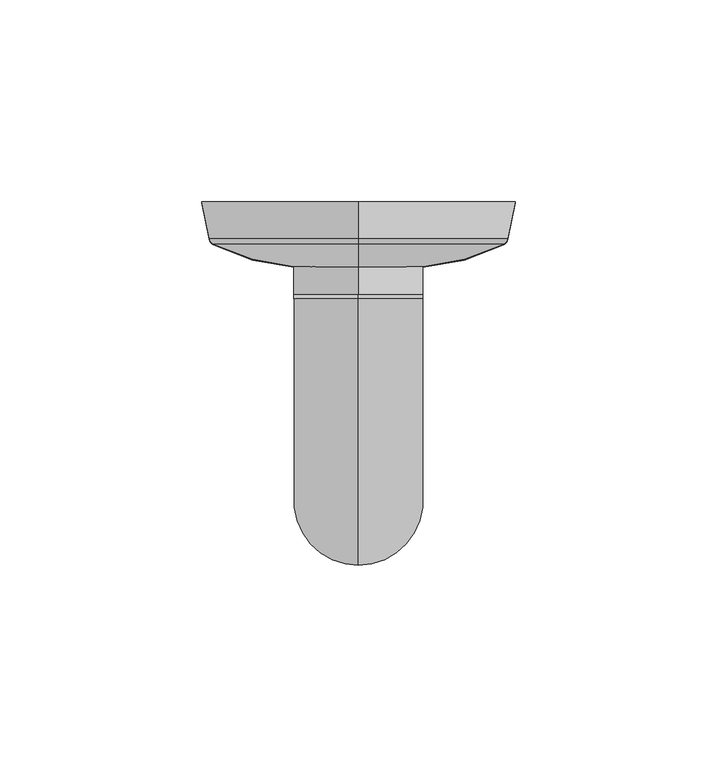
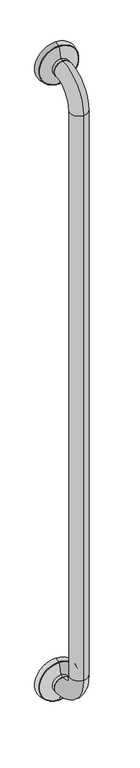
"""IFC4 building model written with IfcOpenShell, lengths in millimetres: proxy geometry, Grab Rail_Metlam_Straight_Vertical : 1232long x 90d x 32w (ML335SS)."""

from ifc_helpers import new_model, si_unit, point, frame, origin, place, context, project, spatial, polyline, circle_curve, ellipse_curve, trimmed, source, transform, mapped, element, save
from ifc_brep_helpers import plane_surface, cylinder_surface, revolved_surface, advanced_brep


def specialty_equipment_c906592a(model_context):
    return source(origin(), model_context, "Body", "AdvancedBrep", [
        advanced_brep(
        [(0.0, -90.0, 834.0), (0.0, -24.0, 768.0), (0.0, -24.0, 800.0), (0.0, -58.0, 834.0), (0.0, -58.0, 1934.0), (0.0, -90.0, 1934.0), (0.0, -24.0, 1968.0), (0.0, -24.0, 2000.0), (0.0, -23.0, 768.0), (0.0, -23.0, 800.0), (0.0, -23.0, 1968.0), (0.0, -23.0, 2000.0), (0.0, 0.0, 1984.0), (0.0, 0.0, 1945.0), (0.0, 0.0, 2023.0), (0.0, -9.0646354, 1946.8129271), (0.0, -9.0646354, 2021.1870729), (0.0, -10.4521085, 2020.1384075), (0.0, -10.4521085, 1947.8615925), (0.0, -16.0065539, 1968.0), (0.0, -16.0065539, 2000.0), (0.0, -9.0646354, 746.8129271), (0.0, -9.0646354, 821.1870729), (0.0, 0.0, 823.0), (0.0, 0.0, 745.0), (0.0, -16.0065539, 768.0), (0.0, -16.0065539, 800.0), (0.0, -10.4521085, 820.1384075), (0.0, -10.4521085, 747.8615925), (0.0, 0.0, 784.0)],
        [
            (0, 1, circle_curve(frame((0.0, -24.0, 834.0), z_axis=(1.0, 0.0, 0.0), x_axis=(0.0, 0.0, -1.0)), 66.0)),
            (1, 2, circle_curve(frame((0.0, -24.0, 784.0), z_axis=(0.0, -1.0, 0.0), x_axis=(0.0, 0.0, -1.0)), 16.0)),
            (2, 3, circle_curve(frame((0.0, -24.0, 834.0), z_axis=(-1.0, 0.0, 0.0), x_axis=(0.0, 0.0, -1.0)), 34.0)),
            (3, 0, circle_curve(frame((0.0, -74.0, 834.0), z_axis=(0.0, 0.0, -1.0), x_axis=(0.0, -1.0, 0.0)), 16.0)),
            (0, 3, circle_curve(frame((0.0, -74.0, 834.0), z_axis=(0.0, 0.0, -1.0), x_axis=(0.0, -1.0, 0.0)), 16.0)),
            (2, 1, circle_curve(frame((0.0, -24.0, 784.0), z_axis=(0.0, -1.0, 0.0), x_axis=(0.0, 0.0, -1.0)), 16.0)),
            (3, 4),
            (4, 5, circle_curve(frame((0.0, -74.0, 1934.0), z_axis=(0.0, 0.0, -1.0), x_axis=(0.0, -1.0, 0.0)), 16.0)),
            (5, 0),
            (5, 4, circle_curve(frame((0.0, -74.0, 1934.0), z_axis=(0.0, 0.0, -1.0), x_axis=(0.0, -1.0, 0.0)), 16.0)),
            (4, 6, circle_curve(frame((0.0, -24.0, 1934.0), z_axis=(-1.0, 0.0, 0.0), x_axis=(0.0, -1.0, 0.0)), 34.0)),
            (6, 7, circle_curve(frame((0.0, -24.0, 1984.0), z_axis=(0.0, -1.0, 0.0), x_axis=(0.0, 0.0, 1.0)), 16.0)),
            (7, 5, circle_curve(frame((0.0, -24.0, 1934.0), z_axis=(1.0, 0.0, 0.0), x_axis=(0.0, -1.0, 0.0)), 66.0)),
            (7, 6, circle_curve(frame((0.0, -24.0, 1984.0), z_axis=(0.0, -1.0, 0.0), x_axis=(0.0, 0.0, 1.0)), 16.0)),
            (1, 8),
            (8, 9, circle_curve(frame((0.0, -23.0, 784.0), z_axis=(0.0, -1.0, 0.0), x_axis=(0.0, 0.0, -1.0)), 16.0)),
            (9, 2),
            (9, 8, circle_curve(frame((0.0, -23.0, 784.0), z_axis=(0.0, -1.0, 0.0), x_axis=(0.0, 0.0, -1.0)), 16.0)),
            (6, 10),
            (10, 11, circle_curve(frame((0.0, -23.0, 1984.0), z_axis=(0.0, -1.0, 0.0), x_axis=(0.0, 0.0, 1.0)), 16.0)),
            (11, 7),
            (11, 10, circle_curve(frame((0.0, -23.0, 1984.0), z_axis=(0.0, -1.0, 0.0), x_axis=(0.0, 0.0, 1.0)), 16.0)),
            (12, 13),
            (13, 14, circle_curve(frame((0.0, 0.0, 1984.0), z_axis=(0.0, 1.0, 0.0), x_axis=(0.0, 0.0, -1.0)), 39.0)),
            (14, 12),
            (14, 13, circle_curve(frame((0.0, 0.0, 1984.0), z_axis=(0.0, 1.0, 0.0), x_axis=(0.0, 0.0, -1.0)), 39.0)),
            (13, 15),
            (15, 16, circle_curve(frame((0.0, -9.0646354, 1984.0), z_axis=(0.0, 1.0, 0.0), x_axis=(0.0, 0.0, -1.0)), 37.1870729)),
            (16, 14),
            (16, 15, circle_curve(frame((0.0, -9.0646354, 1984.0), z_axis=(0.0, 1.0, 0.0), x_axis=(0.0, 0.0, -1.0)), 37.1870729)),
            (17, 18, circle_curve(frame((0.0, -10.4521085, 1984.0), z_axis=(0.0, -1.0, 0.0), x_axis=(0.0, 0.0, -1.0)), 36.1384075)),
            (18, 19, circle_curve(frame((0.0, 35.2834961, 1971.3112908), z_axis=(-1.0, 0.0, 0.0), x_axis=(0.0, 1.0, 0.0)), 51.3968275)),
            (19, 20, circle_curve(frame((0.0, -16.0065539, 1984.0), z_axis=(0.0, 1.0, 0.0), x_axis=(0.0, 0.0, -1.0)), 16.0)),
            (20, 17, circle_curve(frame((0.0, 35.2834961, 1996.6887092), z_axis=(-1.0, 0.0, 0.0), x_axis=(0.0, 1.0, 0.0)), 51.3968275)),
            (18, 17, circle_curve(frame((0.0, -10.4521085, 1984.0), z_axis=(0.0, -1.0, 0.0), x_axis=(0.0, 0.0, -1.0)), 36.1384075)),
            (20, 19, circle_curve(frame((0.0, -16.0065539, 1984.0), z_axis=(0.0, 1.0, 0.0), x_axis=(0.0, 0.0, -1.0)), 16.0)),
            (19, 10),
            (11, 20),
            (15, 18, circle_curve(frame((0.0, -8.6724031, 1948.7740884), z_axis=(-1.0, 0.0, 0.0), x_axis=(0.0, 1.0, 0.0)), 2.0)),
            (17, 16, circle_curve(frame((0.0, -8.6724031, 2019.2259116), z_axis=(-1.0, 0.0, 0.0), x_axis=(0.0, 1.0, 0.0)), 2.0)),
            (21, 22, circle_curve(frame((0.0, -9.0646354, 784.0), z_axis=(0.0, 1.0, 0.0), x_axis=(0.0, 0.0, 1.0)), 37.1870729)),
            (22, 23),
            (23, 24, circle_curve(frame((0.0, 0.0, 784.0), z_axis=(0.0, -1.0, 0.0), x_axis=(0.0, 0.0, 1.0)), 39.0)),
            (24, 21),
            (22, 21, circle_curve(frame((0.0, -9.0646354, 784.0), z_axis=(0.0, 1.0, 0.0), x_axis=(0.0, 0.0, 1.0)), 37.1870729)),
            (24, 23, circle_curve(frame((0.0, 0.0, 784.0), z_axis=(0.0, -1.0, 0.0), x_axis=(0.0, 0.0, 1.0)), 39.0)),
            (25, 26, circle_curve(frame((0.0, -16.0065539, 784.0), z_axis=(0.0, 1.0, 0.0), x_axis=(0.0, 0.0, 1.0)), 16.0)),
            (26, 27, circle_curve(frame((0.0, 35.2834961, 796.6887092), z_axis=(-1.0, 0.0, 0.0), x_axis=(0.0, 1.0, 0.0)), 51.3968275)),
            (27, 28, circle_curve(frame((0.0, -10.4521085, 784.0), z_axis=(0.0, -1.0, 0.0), x_axis=(0.0, 0.0, 1.0)), 36.1384075)),
            (28, 25, circle_curve(frame((0.0, 35.2834961, 771.3112908), z_axis=(-1.0, 0.0, 0.0), x_axis=(0.0, 1.0, 0.0)), 51.3968275)),
            (26, 25, circle_curve(frame((0.0, -16.0065539, 784.0), z_axis=(0.0, 1.0, 0.0), x_axis=(0.0, 0.0, 1.0)), 16.0)),
            (28, 27, circle_curve(frame((0.0, -10.4521085, 784.0), z_axis=(0.0, -1.0, 0.0), x_axis=(0.0, 0.0, 1.0)), 36.1384075)),
            (25, 8),
            (9, 26),
            (23, 29),
            (29, 24),
            (21, 28, circle_curve(frame((0.0, -8.6724031, 748.7740884), z_axis=(-1.0, 0.0, 0.0), x_axis=(0.0, 1.0, 0.0)), 2.0)),
            (27, 22, circle_curve(frame((0.0, -8.6724031, 819.2259116), z_axis=(-1.0, 0.0, 0.0), x_axis=(0.0, 1.0, 0.0)), 2.0)),
        ],
        [
            revolved_surface(trimmed(ellipse_curve(frame((0.0, -24.0, 784.0), z_axis=(0.0, 1.0, 0.0), x_axis=(0.0, 0.0, -1.0)), 16.0, 16.0), [point((0.0, -24.0, 800.0))], [point((0.0, -24.0, 768.0))], True, "CARTESIAN"), (0.0, -24.0, 834.0), (-1.0, 0.0, 0.0)),
            revolved_surface(trimmed(ellipse_curve(frame((0.0, -24.0, 784.0), z_axis=(0.0, 1.0, 0.0), x_axis=(0.0, 0.0, -1.0)), 16.0, 16.0), [point((0.0, -24.0, 768.0))], [point((0.0, -24.0, 800.0))], True, "CARTESIAN"), (0.0, -24.0, 834.0), (-1.0, 0.0, 0.0)),
            cylinder_surface(frame((0.0, -74.0, 834.0), z_axis=(0.0, 0.0, -1.0), x_axis=(0.0, -1.0, 0.0)), 16.0),
            revolved_surface(trimmed(ellipse_curve(frame((0.0, -74.0, 1934.0), z_axis=(0.0, 0.0, -1.0), x_axis=(0.0, -1.0, 0.0)), 16.0, 16.0), [point((0.0, -58.0, 1934.0))], [point((0.0, -90.0, 1934.0))], True, "CARTESIAN"), (0.0, -24.0, 1934.0), (-1.0, 0.0, 0.0)),
            revolved_surface(trimmed(ellipse_curve(frame((0.0, -74.0, 1934.0), z_axis=(0.0, 0.0, -1.0), x_axis=(0.0, -1.0, 0.0)), 16.0, 16.0), [point((0.0, -90.0, 1934.0))], [point((0.0, -58.0, 1934.0))], True, "CARTESIAN"), (0.0, -24.0, 1934.0), (-1.0, 0.0, 0.0)),
            cylinder_surface(frame((0.0, -23.0, 784.0), z_axis=(0.0, 1.0, 0.0), x_axis=(0.0, 0.0, -1.0)), 16.0),
            cylinder_surface(frame((0.0, -24.0, 1984.0), z_axis=(0.0, -1.0, 0.0), x_axis=(0.0, 0.0, 1.0)), 16.0),
            plane_surface(frame((0.0, 0.0, 1984.0), z_axis=(0.0, 1.0, 0.0), x_axis=(0.0, 0.0, -1.0))),
            revolved_surface(polyline([(0.0, -9.0646354, 1946.8129271), (0.0, 0.0, 1945.0)]), (0.0, -10.0, 1984.0), (0.0, 1.0, 0.0)),
            revolved_surface(trimmed(ellipse_curve(frame((0.0, 35.2834961, 1971.3112908), z_axis=(1.0, 0.0, 0.0), x_axis=(0.0, 1.0, 0.0)), 51.3968275, 51.3968275), [point((0.0, -16.0065539, 1968.0))], [point((0.0, -10.4521085, 1947.8615925))], True, "CARTESIAN"), (0.0, -10.0, 1984.0), (0.0, 1.0, 0.0)),
            cylinder_surface(frame((0.0, -10.0, 1984.0), z_axis=(0.0, 1.0, 0.0), x_axis=(0.0, 0.0, -1.0)), 16.0),
            revolved_surface(trimmed(ellipse_curve(frame((0.0, -8.6724031, 1948.7740884), z_axis=(1.0, 0.0, 0.0), x_axis=(0.0, 1.0, 0.0)), 2.0, 2.0), [point((0.0, -10.4521085, 1947.8615925))], [point((0.0, -9.0646354, 1946.8129271))], True, "CARTESIAN"), (0.0, -10.0, 1984.0), (0.0, 1.0, 0.0)),
            revolved_surface(polyline([(0.0, 0.0, 823.0), (0.0, -9.0646354, 821.1870729)]), (0.0, -10.0, 784.0), (0.0, -1.0, 0.0)),
            revolved_surface(trimmed(ellipse_curve(frame((0.0, 35.2834961, 796.6887092), z_axis=(1.0, 0.0, 0.0), x_axis=(0.0, 1.0, 0.0)), 51.3968275, 51.3968275), [point((0.0, -10.4521085, 820.1384075))], [point((0.0, -16.0065539, 800.0))], True, "CARTESIAN"), (0.0, -10.0, 784.0), (0.0, -1.0, 0.0)),
            cylinder_surface(frame((0.0, -10.0, 784.0), z_axis=(0.0, -1.0, 0.0), x_axis=(0.0, 0.0, 1.0)), 16.0),
            plane_surface(frame((0.0, 0.0, 784.0), z_axis=(0.0, 1.0, 0.0), x_axis=(0.0, 0.0, 1.0))),
            revolved_surface(trimmed(ellipse_curve(frame((0.0, -8.6724031, 819.2259116), z_axis=(1.0, 0.0, 0.0), x_axis=(0.0, 1.0, 0.0)), 2.0, 2.0), [point((0.0, -9.0646354, 821.1870729))], [point((0.0, -10.4521085, 820.1384075))], True, "CARTESIAN"), (0.0, -10.0, 784.0), (0.0, -1.0, 0.0)),
        ],
        [
            (0, [[1, 2, 3, 4]]),
            (1, [[-1, 5, -3, 6]]),
            (2, [[-4, 7, 8, 9]]),
            (2, [[-5, -9, 10, -7]]),
            (3, [[-8, 11, 12, 13]]),
            (4, [[-10, -13, 14, -11]]),
            (5, [[-2, 15, 16, 17]]),
            (5, [[-6, -17, 18, -15]]),
            (6, [[-12, 19, 20, 21]]),
            (6, [[-14, -21, 22, -19]]),
            (7, [[23, 24, 25]]),
            (7, [[-23, -25, 26]]),
            (8, [[-24, 27, 28, 29]]),
            (8, [[-26, -29, 30, -27]]),
            (9, [[31, 32, 33, 34]]),
            (9, [[-32, 35, -34, 36]]),
            (10, [[-33, 37, -22, 38]]),
            (10, [[-36, -38, -20, -37]]),
            (11, [[-28, 39, -31, 40]]),
            (11, [[-30, -40, -35, -39]]),
            (12, [[41, 42, 43, 44]]),
            (12, [[-42, 45, -44, 46]]),
            (13, [[47, 48, 49, 50]]),
            (13, [[-48, 51, -50, 52]]),
            (14, [[-47, 53, -18, 54]]),
            (14, [[-51, -54, -16, -53]]),
            (15, [[-43, 55, 56]]),
            (15, [[-46, -56, -55]]),
            (16, [[-41, 57, -49, 58]]),
            (16, [[-45, -58, -52, -57]]),
        ],
    ),
    ])


if __name__ == "__main__":
    model = new_model("IFC4")
    model_context = context("Model", 3, world=origin())
    ifc_project = project(units=[si_unit("LENGTHUNIT", "METRE", prefix="MILLI")], contexts=[model_context])
    site = spatial("IfcSite", under=ifc_project)
    building = spatial("IfcBuilding", under=site)
    placement = place(None, origin())
    specialty_equipment_shape = specialty_equipment_c906592a(model_context)
    element("IfcBuildingElementProxy", 1, Name="Grab Rail_Metlam_Straight_Vertical : 1232long x 90d x 32w (ML335SS)", ObjectType="Grab Rail_Metlam_Straight_Vertical : 1232long x 90d x 32w (ML335SS)", at=placement, inside=building, context=model_context, shape_type="MappedRepresentation", body=[
        mapped(specialty_equipment_shape, transform((0.0, 0.0, 0.0), x_axis=(1.0, 0.0, 0.0), y_axis=(0.0, 1.0, 0.0), z_axis=(0.0, 0.0, 1.0))),
    ])
    save(model, "model.ifc")
